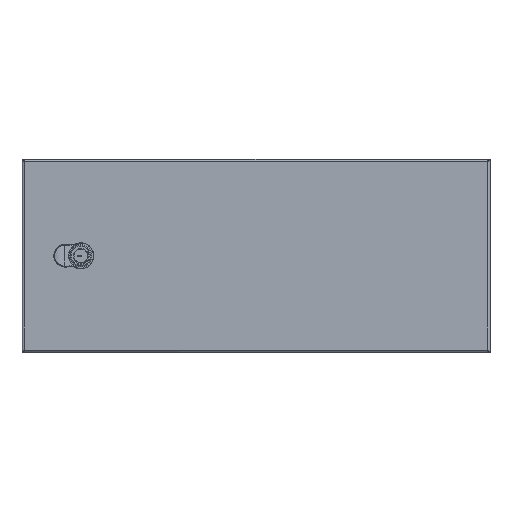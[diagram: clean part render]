
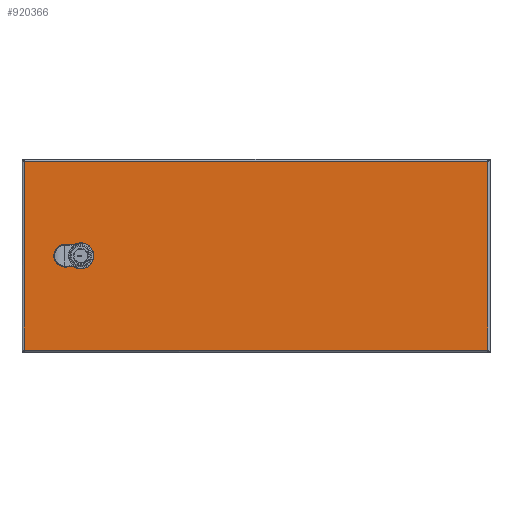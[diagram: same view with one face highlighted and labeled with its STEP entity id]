
A CAD part, top view. The second image highlights one B-rep face of the part: STEP entity #920366.
In plain terms, the highlighted planar face has unit normal (0, 0, 1).
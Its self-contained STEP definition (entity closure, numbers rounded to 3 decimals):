
#914276=CARTESIAN_POINT(' ',(289.046,121.758,303.371));
#914277=VERTEX_POINT(' ',#914276);
#914941=CARTESIAN_POINT(' ',(289.046,-117.642,303.371));
#914942=VERTEX_POINT(' ',#914941);
#915916=CARTESIAN_POINT(' ',(289.046,121.758,303.371));
#915921=DIRECTION(' ',(0.,-1.,0.));
#915926=VECTOR(' ',#915921,1.);
#915931=LINE('',#915916,#915926);
#915936=EDGE_CURVE(' ',#914277,#914942,#915931,.T.);
#918171=CARTESIAN_POINT(' ',(-299.354,-117.642,303.371));
#918172=VERTEX_POINT(' ',#918171);
#918786=CARTESIAN_POINT(' ',(-299.354,121.758,303.371));
#918787=VERTEX_POINT(' ',#918786);
#920236=DIRECTION(' ',(-0.,-0.,1.));
#920241=CARTESIAN_POINT(' ',(289.046,-117.642,303.371));
#920246=DIRECTION(' ',(0.,1.,0.));
#920251=AXIS2_PLACEMENT_3D(' ',#920241,#920236,#920246);
#920256=PLANE('NONE',#920251);
#920261=CARTESIAN_POINT(' ',(-299.354,-117.642,303.371));
#920266=DIRECTION(' ',(1.,0.,0.));
#920271=VECTOR(' ',#920266,1.);
#920276=LINE('',#920261,#920271);
#920281=EDGE_CURVE(' ',#918172,#914942,#920276,.T.);
#920286=ORIENTED_EDGE(' ',*,*,#920281,.T.);
#920291=ORIENTED_EDGE(' ',*,*,#915936,.F.);
#920296=CARTESIAN_POINT(' ',(289.046,121.758,303.371));
#920301=DIRECTION(' ',(-1.,0.,0.));
#920306=VECTOR(' ',#920301,1.);
#920311=LINE('',#920296,#920306);
#920316=EDGE_CURVE(' ',#914277,#918787,#920311,.T.);
#920321=ORIENTED_EDGE(' ',*,*,#920316,.T.);
#920326=CARTESIAN_POINT(' ',(-299.354,121.758,303.371));
#920331=DIRECTION(' ',(0.,-1.,0.));
#920336=VECTOR(' ',#920331,1.);
#920341=LINE('',#920326,#920336);
#920346=EDGE_CURVE(' ',#918787,#918172,#920341,.T.);
#920351=ORIENTED_EDGE(' ',*,*,#920346,.T.);
#920356=EDGE_LOOP(' ',(#920286,#920291,#920321,#920351));
#920361=FACE_OUTER_BOUND(' ',#920356,.T.);
#920366=ADVANCED_FACE('NONE',(#920361),#920256,.T.);
